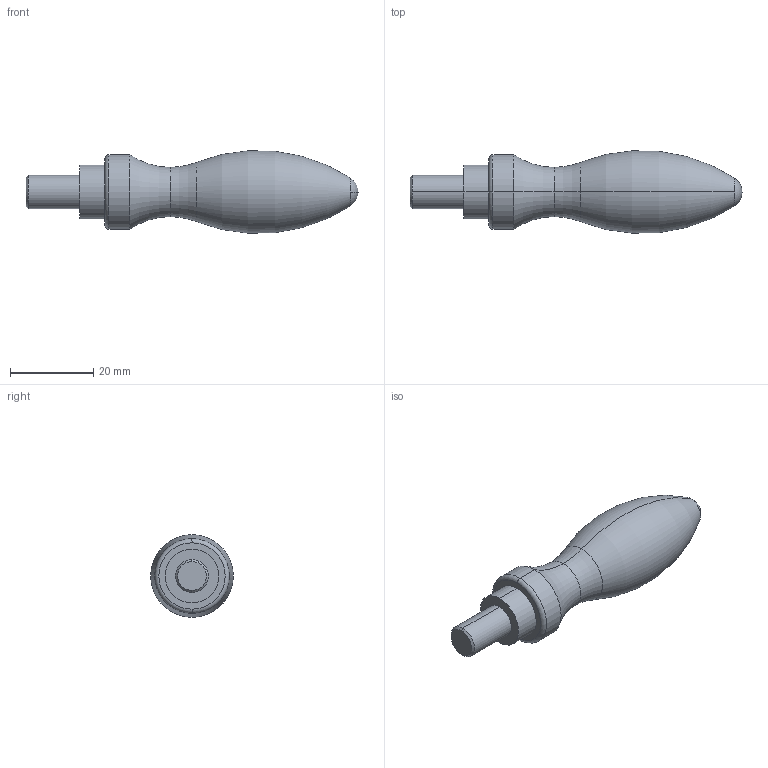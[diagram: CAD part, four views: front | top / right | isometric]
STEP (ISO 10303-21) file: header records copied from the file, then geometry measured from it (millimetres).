
FILE_DESCRIPTION (( 'STEP AP214' ), '1' );
FILE_NAME ('98-AL-20-D.step', '2019-05-20T08:46:51', ( 'user' ), ( '' ), 'SwSTEP 2.0', 'SolidWorks 2019', '' );
FILE_SCHEMA (( 'AUTOMOTIVE_DESIGN' ));
Length unit declared in the file: millimetre
Products named in the file (1): 98-AL-20-D
Bounding box: 80 x 19.83 x 19.86 mm (x, y, z)
Volume: 13752.6 mm3; surface area: 3905.8 mm2
Topology: 1 solids, 1 shells, 21 faces, 42 edges, 25 vertices
Faces by surface type: torus 8, cylinder 6, plane 3, sphere 2, cone 2
Entity records: 680 total; most frequent: DIRECTION 120, CARTESIAN_POINT 89, ORIENTED_EDGE 84, AXIS2_PLACEMENT_3D 56, EDGE_CURVE 42, CIRCLE 34, VERTEX_POINT 25, EDGE_LOOP 23
